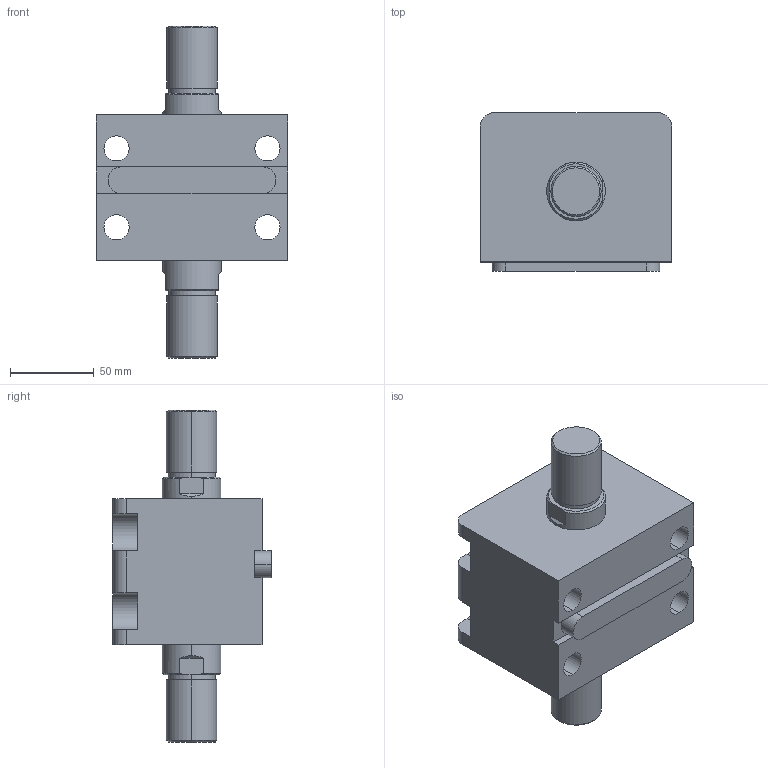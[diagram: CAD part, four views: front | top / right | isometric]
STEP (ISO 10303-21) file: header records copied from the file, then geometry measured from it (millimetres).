
FILE_DESCRIPTION (( 'STEP AP203' ), '1' );
FILE_NAME ('HTB-LW63-5W.STEP', '2019-10-09T08:23:09', ( '微软用户' ), ( '微软中国' ), 'SwSTEP 2.0', 'SolidWorks 2012', '' );
FILE_SCHEMA (( 'CONFIG_CONTROL_DESIGN' ));
Length unit declared in the file: millimetre
Products named in the file (4): HTB-LW63-5W; HTB-LA63-瑩; HTB-LW63-5W活塞杆; HTB-LW63-5掛极
Assembly tree (3 placements, depth 2):
  HTB-LW63-5W
    HTB-LW63-5掛极
    HTB-LW63-5W活塞杆
    HTB-LA63-瑩
Bounding box: 114 x 94.5 x 198 mm (x, y, z)
Volume: 879796.9 mm3; surface area: 119547.3 mm2
Topology: 3 solids, 3 shells, 109 faces, 265 edges, 174 vertices
Faces by surface type: plane 48, cylinder 45, cone 12, torus 4
Entity records: 3679 total; most frequent: CARTESIAN_POINT 610, DIRECTION 593, ORIENTED_EDGE 530, EDGE_CURVE 265, AXIS2_PLACEMENT_3D 229, VERTEX_POINT 174, LINE 135, VECTOR 135
